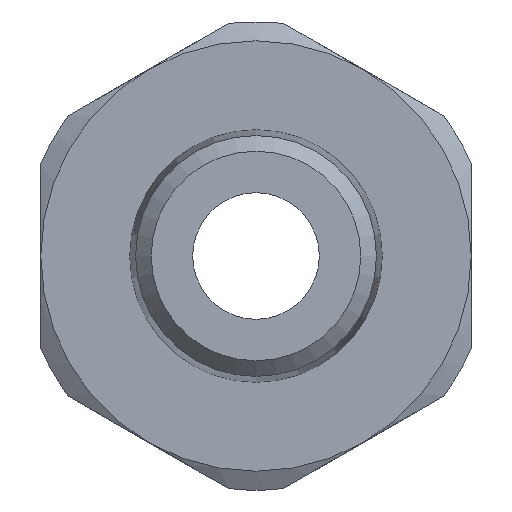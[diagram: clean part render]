
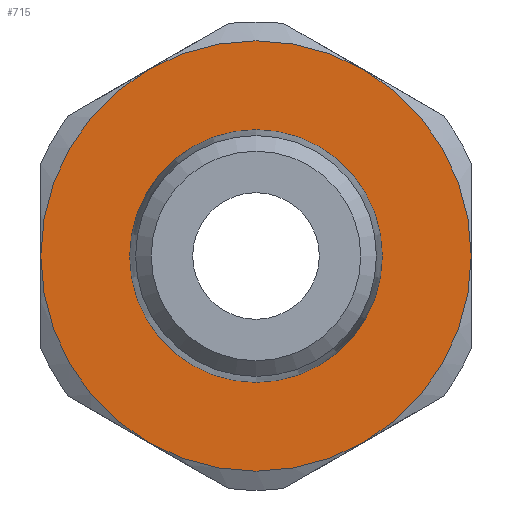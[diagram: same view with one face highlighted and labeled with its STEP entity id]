
A CAD part, left-side view. The second image highlights one B-rep face of the part: STEP entity #715.
In plain terms, the highlighted planar face has unit normal (-1, 0, 0).
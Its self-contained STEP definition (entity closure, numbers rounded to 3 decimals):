
#122=PLANE($,#802);
#136=FACE_BOUND($,#232,.T.);
#137=FACE_BOUND($,#233,.T.);
#232=EDGE_LOOP($,(#638));
#233=EDGE_LOOP($,(#639,#640,#641,#642,#643,#644));
#256=CIRCLE($,#738,4.989);
#258=CIRCLE($,#742,8.5);
#259=CIRCLE($,#744,8.5);
#261=CIRCLE($,#747,8.5);
#264=CIRCLE($,#751,8.5);
#266=CIRCLE($,#754,8.5);
#285=CIRCLE($,#791,8.5);
#301=VERTEX_POINT($,#1050);
#303=VERTEX_POINT($,#1055);
#305=VERTEX_POINT($,#1061);
#306=VERTEX_POINT($,#1067);
#309=VERTEX_POINT($,#1079);
#313=VERTEX_POINT($,#1092);
#316=VERTEX_POINT($,#1104);
#370=EDGE_CURVE($,#301,#301,#256,.F.);
#374=EDGE_CURVE($,#303,#305,#258,.T.);
#376=EDGE_CURVE($,#305,#306,#259,.T.);
#380=EDGE_CURVE($,#306,#309,#261,.T.);
#386=EDGE_CURVE($,#313,#303,#264,.T.);
#390=EDGE_CURVE($,#316,#313,#266,.T.);
#444=EDGE_CURVE($,#309,#316,#285,.T.);
#638=ORIENTED_EDGE($,*,*,#370,.T.);
#639=ORIENTED_EDGE($,*,*,#376,.T.);
#640=ORIENTED_EDGE($,*,*,#380,.T.);
#641=ORIENTED_EDGE($,*,*,#444,.T.);
#642=ORIENTED_EDGE($,*,*,#390,.T.);
#643=ORIENTED_EDGE($,*,*,#386,.T.);
#644=ORIENTED_EDGE($,*,*,#374,.T.);
#715=ADVANCED_FACE($,(#136,#137),#122,.F.);
#738=AXIS2_PLACEMENT_3D($,#1051,#842,#843);
#742=AXIS2_PLACEMENT_3D($,#1065,#850,#851);
#744=AXIS2_PLACEMENT_3D($,#1072,#854,#855);
#747=AXIS2_PLACEMENT_3D($,#1084,#860,#861);
#751=AXIS2_PLACEMENT_3D($,#1101,#868,#869);
#754=AXIS2_PLACEMENT_3D($,#1113,#874,#875);
#791=AXIS2_PLACEMENT_3D($,#1247,#970,#971);
#802=AXIS2_PLACEMENT_3D($,#1272,#1000,#1001);
#842=DIRECTION('center_axis',(-1.,0.,0.));
#843=DIRECTION('ref_axis',(0.,0.,-1.));
#850=DIRECTION('center_axis',(-1.,0.,0.));
#851=DIRECTION('ref_axis',(0.,0.,1.));
#854=DIRECTION('center_axis',(-1.,0.,0.));
#855=DIRECTION('ref_axis',(0.,0.,1.));
#860=DIRECTION('center_axis',(-1.,0.,0.));
#861=DIRECTION('ref_axis',(0.,0.,1.));
#868=DIRECTION('center_axis',(-1.,0.,0.));
#869=DIRECTION('ref_axis',(0.,0.,1.));
#874=DIRECTION('center_axis',(-1.,0.,0.));
#875=DIRECTION('ref_axis',(0.,0.,1.));
#970=DIRECTION('center_axis',(-1.,0.,0.));
#971=DIRECTION('ref_axis',(0.,0.,1.));
#1000=DIRECTION('center_axis',(1.,0.,0.));
#1001=DIRECTION('ref_axis',(0.,0.,-1.));
#1050=CARTESIAN_POINT('',(-12.5,0.,4.989));
#1051=CARTESIAN_POINT('Origin',(-12.5,0.,0.));
#1055=CARTESIAN_POINT('',(-12.5,4.25,-7.361));
#1061=CARTESIAN_POINT('',(-12.5,-4.25,-7.361));
#1065=CARTESIAN_POINT('Origin',(-12.5,0.,0.));
#1067=CARTESIAN_POINT('',(-12.5,-8.5,0.));
#1072=CARTESIAN_POINT('Origin',(-12.5,0.,0.));
#1079=CARTESIAN_POINT('',(-12.5,-4.25,7.361));
#1084=CARTESIAN_POINT('Origin',(-12.5,0.,0.));
#1092=CARTESIAN_POINT('',(-12.5,8.5,0.));
#1101=CARTESIAN_POINT('Origin',(-12.5,0.,0.));
#1104=CARTESIAN_POINT('',(-12.5,4.25,7.361));
#1113=CARTESIAN_POINT('Origin',(-12.5,0.,0.));
#1247=CARTESIAN_POINT('Origin',(-12.5,0.,0.));
#1272=CARTESIAN_POINT('Origin',(-12.5,0.,0.));
